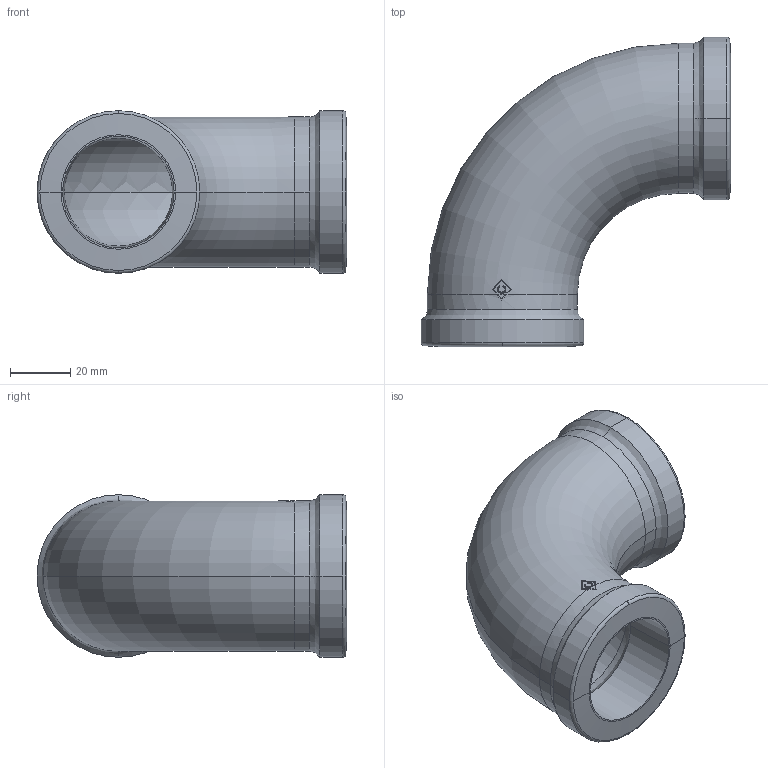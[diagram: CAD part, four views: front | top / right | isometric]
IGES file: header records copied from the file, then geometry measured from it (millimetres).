
Global section: file name: No Iges File Name specified; native system: AutoDesk Inventor R12.0; preprocessor: AutoDesk Inventor Iges Exporter R12.0; date: 20090917.095211; units: millimetre
Bounding box: 103.05 x 103.05 x 54.1 mm (x, y, z)
Volume: 92262.9 mm3; surface area: 38882.7 mm2
Topology: 1 solids, 1 shells, 55 faces, 143 edges, 91 vertices
Faces by surface type: bspline 14, plane 12, cylinder 10, torus 9, revolution 6, cone 4
